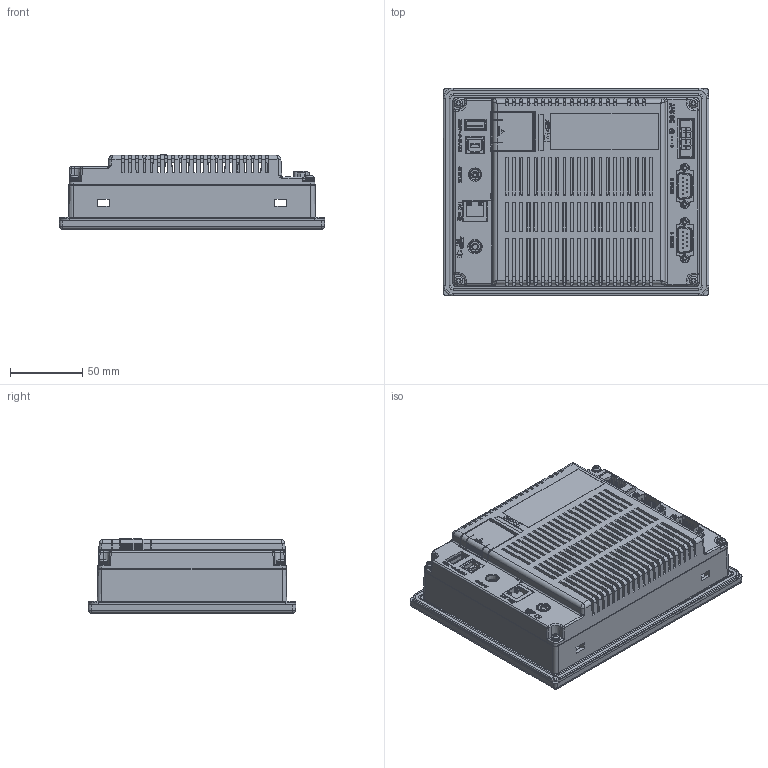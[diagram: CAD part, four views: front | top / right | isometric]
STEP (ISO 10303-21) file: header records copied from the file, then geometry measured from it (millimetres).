
FILE_DESCRIPTION((''),'2;1');
FILE_NAME('DOP-B07S515','2010-10-15T',('EDISON.TANG'),(''),'PRO/ENGINEER BY PARAMETRIC TECHNOLOGY CORPORATION, 2008230','PRO/ENGINEER BY PARAMETRIC TECHNOLOGY CORPORATION, 2008230','');
FILE_SCHEMA(('CONFIG_CONTROL_DESIGN'));
Products named in the file (1): DOP-B07S515
Bounding box: 184.1 x 144.1 x 51.4 mm (x, y, z)
Surface area: 212546.5 mm2 (no closed solid volume)
Topology: 0 solids, 20 shells, 4117 faces, 11756 edges, 8367 vertices
Faces by surface type: plane 2332, cylinder 929, extrusion 325, bspline 249, cone 108, torus 101, sphere 73
Entity records: 164461 total; most frequent: CARTESIAN_POINT 61945, ORIENTED_EDGE 21952, DIRECTION 18978, EDGE_CURVE 11053, VECTOR 8326, LINE 8001, VERTEX_POINT 7102, AXIS2_PLACEMENT_3D 5326
